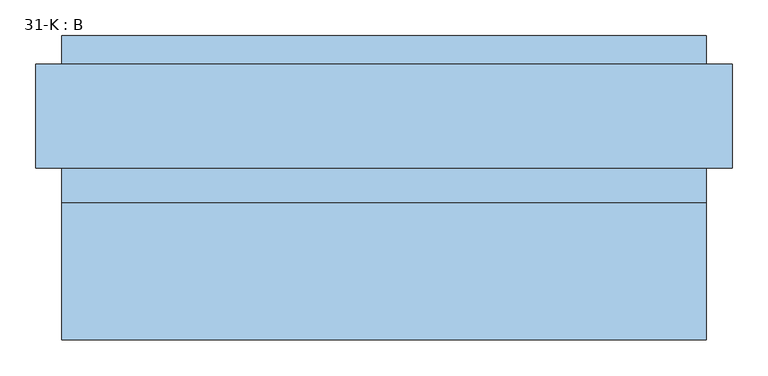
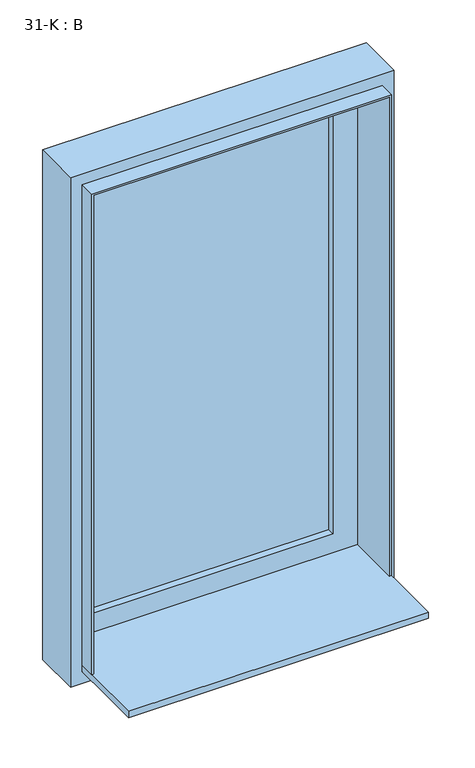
"""IFC4 building model written with IfcOpenShell, lengths in millimetres: window geometry, 31-K : B."""

import ifcopenshell
import ifcopenshell.guid

model = None  # the IFC model being written
_history = None  # IfcOwnerHistory: only IFC2X3 demands one
_inside = {}  # id of a spatial element -> (the spatial element, [elements in it])
_under = {}  # id of a project, library or spatial element -> (it, [spatial elements below it])
_declared = {}  # id of a project -> (the project, [libraries it declares])
_typed = {}  # id of a type object -> (the type object, [elements of that type])
_made_of = {}  # id of a material, layer set ... -> (it, [elements and type objects made of it])


def new_model(schema):
    """Start an empty IFC model of exactly this schema.

    Asked for "IFC4X3", IfcOpenShell would pick the latest addendum, in which some entities
    have other attributes; the version numbers below select the first issue.
    IFC2X3 requires an IfcOwnerHistory on every rooted entity: one is made here for all.
    """
    global model, _history
    if schema == "IFC4X3":
        model = ifcopenshell.file(schema_version=(4, 3, 0, 0))
    else:
        model = ifcopenshell.file(schema=schema)
    _inside.clear()
    _under.clear()
    _declared.clear()
    _typed.clear()
    _made_of.clear()
    _history = None
    if model.schema == "IFC2X3":
        org = make("IfcOrganization", Name="unknown")
        user = make(
            "IfcPersonAndOrganization",
            ThePerson=make("IfcPerson", FamilyName="unknown"),
            TheOrganization=org,
        )
        app = make(
            "IfcApplication",
            ApplicationDeveloper=org,
            Version="unknown",
            ApplicationFullName="unknown",
            ApplicationIdentifier="unknown",
        )
        _history = make(
            "IfcOwnerHistory",
            OwningUser=user,
            OwningApplication=app,
            ChangeAction="ADDED",
            CreationDate=0,
        )
    return model


def make(cls, **values):
    """One entity of the class cls with the attributes given. An attribute that is None is left unset."""
    return model.create_entity(
        cls, **{name: value for name, value in values.items() if value is not None}
    )


def rooted(cls, **values):
    """An entity with a GlobalId (a new one), such as an element, a storey or a relation."""
    return make(cls, GlobalId=ifcopenshell.guid.new(), OwnerHistory=_history, **values)


def si_unit(unit_type, name, prefix=None):
    """IfcSIUnit, for example si_unit("LENGTHUNIT", "METRE", prefix="MILLI")."""
    return make("IfcSIUnit", UnitType=unit_type, Prefix=prefix, Name=name)


def assignment(units):
    """IfcUnitAssignment: the units of a project."""
    return None if units is None else make("IfcUnitAssignment", Units=units)


def point(xyz):
    """IfcCartesianPoint."""
    return None if xyz is None else make("IfcCartesianPoint", Coordinates=xyz)


def direction(xyz):
    """IfcDirection."""
    return None if xyz is None else make("IfcDirection", DirectionRatios=xyz)


def frame(location, z_axis=None, x_axis=None):
    """IfcAxis2Placement3D, a coordinate frame: its origin and axes. An axis left out is left unset."""
    return make(
        "IfcAxis2Placement3D",
        Location=point(location),
        Axis=direction(z_axis),
        RefDirection=direction(x_axis),
    )


def origin():
    """The frame at (0, 0, 0) with its axes left unset."""
    return frame((0.0, 0.0, 0.0))


def place(relative_to, where):
    """IfcLocalPlacement: puts the frame where relative to a parent placement (None: the world)."""
    return make(
        "IfcLocalPlacement", PlacementRelTo=relative_to, RelativePlacement=where
    )


def context(
    kind, dimensions, precision=None, world=None, true_north=None, identifier=None
):
    """IfcGeometricRepresentationContext, for example the 3D "Model" context."""
    return make(
        "IfcGeometricRepresentationContext",
        ContextIdentifier=identifier,
        ContextType=kind,
        CoordinateSpaceDimension=dimensions,
        Precision=precision,
        WorldCoordinateSystem=world,
        TrueNorth=true_north,
    )


def project(units=None, contexts=None):
    """IfcProject with its units and contexts."""
    return rooted(
        "IfcProject",
        Name="project",
        RepresentationContexts=contexts,
        UnitsInContext=assignment(units),
    )


def spatial(cls, under=None, at=None, **own):
    """A site, building, storey or space (cls), placed at a placement, below another one or the project."""
    s = rooted(cls, ObjectPlacement=at, **own)
    if under is not None:
        _under.setdefault(under.id(), (under, []))[1].append(s)
    return s


def polyline(points):
    """IfcPolyline through the points."""
    return make("IfcPolyline", Points=[point(p) for p in points])


def outline(outer, holes=None, kind="AREA"):
    """IfcArbitraryClosedProfileDef: a profile drawn as a closed curve; with holes, ...WithVoids."""
    if holes is None:
        return make("IfcArbitraryClosedProfileDef", ProfileType=kind, OuterCurve=outer)
    return make(
        "IfcArbitraryProfileDefWithVoids",
        ProfileType=kind,
        OuterCurve=outer,
        InnerCurves=holes,
    )


def extrude(swept, where, along, depth):
    """IfcExtrudedAreaSolid: the profile swept, set in the frame where, extruded along a direction by depth."""
    return make(
        "IfcExtrudedAreaSolid",
        SweptArea=swept,
        Position=where,
        ExtrudedDirection=direction(along),
        Depth=depth,
    )


def faces_of(points, faces, orient=None, outer=None):
    """IfcFace entities. A face is a list of loops; a loop is a list of indices into points, from 0.

    orient and outer hold one flag for each loop. By default every Orientation is true, the
    first loop of a face is its IfcFaceOuterBound and the others are IfcFaceBound.
    """
    made = []
    for i, loops in enumerate(faces):
        bounds = []
        for j, loop in enumerate(loops):
            is_outer = j == 0 if outer is None else outer[i][j]
            bounds.append(
                make(
                    "IfcFaceOuterBound" if is_outer else "IfcFaceBound",
                    Bound=make("IfcPolyLoop", Polygon=[points[k] for k in loop]),
                    Orientation=True if orient is None else orient[i][j],
                )
            )
        made.append(make("IfcFace", Bounds=bounds))
    return made


def faceted_brep(points, faces, orient=None, outer=None, voids=None):
    """IfcFacetedBrep: a solid bounded by flat faces; with voids (closed shells), ...WithVoids."""
    shared = [point(p) for p in points]
    hull = make("IfcClosedShell", CfsFaces=faces_of(shared, faces, orient, outer))
    if voids is None:
        return make("IfcFacetedBrep", Outer=hull)
    return make(
        "IfcFacetedBrepWithVoids",
        Outer=hull,
        Voids=[
            make(cls, CfsFaces=faces_of(shared, fs, o, b)) for cls, fs, o, b in voids
        ],
    )


def shape(context_of_items, identifier, shape_type, items):
    """IfcShapeRepresentation: the items that make up one representation, for example the "Body"."""
    return make(
        "IfcShapeRepresentation",
        ContextOfItems=context_of_items,
        RepresentationIdentifier=identifier,
        RepresentationType=shape_type,
        Items=items,
    )


def source(mapping_origin, context_of_items, identifier, shape_type, items):
    """IfcRepresentationMap: a shape defined once, which mapped items show again and again."""
    return make(
        "IfcRepresentationMap",
        MappingOrigin=mapping_origin,
        MappedRepresentation=shape(context_of_items, identifier, shape_type, items),
    )


def transform(
    local_origin,
    x_axis=None,
    y_axis=None,
    z_axis=None,
    scale=None,
    scale2=None,
    scale3=None,
    uniform=True,
):
    """IfcCartesianTransformationOperator3D, or its non-uniform kind. x_axis, y_axis, z_axis: its Axis1, 2, 3."""
    if uniform:
        return make(
            "IfcCartesianTransformationOperator3D",
            Axis1=direction(x_axis),
            Axis2=direction(y_axis),
            LocalOrigin=point(local_origin),
            Scale=scale,
            Axis3=direction(z_axis),
        )
    return make(
        "IfcCartesianTransformationOperator3DnonUniform",
        Axis1=direction(x_axis),
        Axis2=direction(y_axis),
        LocalOrigin=point(local_origin),
        Scale=scale,
        Axis3=direction(z_axis),
        Scale2=scale2,
        Scale3=scale3,
    )


def mapped(mapping_source, mapping_target):
    """IfcMappedItem: shows the shape of a source again, moved by a transform."""
    return make(
        "IfcMappedItem", MappingSource=mapping_source, MappingTarget=mapping_target
    )


def made_of(thing, what):
    """Note that an element or type object is made of a material, layer set ...; save() writes the relation."""
    if what is not None:
        _made_of.setdefault(what.id(), (what, []))[1].append(thing)
    return thing


def element(
    cls,
    number,
    at=None,
    inside=None,
    cuts=None,
    type_object=None,
    material=None,
    context=None,
    identifier="Body",
    shape_type=None,
    held_by="IfcProductDefinitionShape",
    body=None,
    shapes=None,
    **own,
):
    """One element of the class cls, such as IfcWall. Its Tag is "e" and its number.

    at: its placement. inside: the storey or other place that contains it. cuts: it is an
    opening in that element (IfcRelVoidsElement). A single representation is given by context,
    identifier, shape_type and body (its items); several are given by shapes. held_by: the class
    of the entity that holds the representations. save() writes the other relations.
    """
    e = rooted(cls, Tag="e%d" % number, ObjectPlacement=at, **own)
    if body is not None:
        shapes = [shape(context, identifier, shape_type, body)]
    if shapes is not None:
        e.Representation = make(held_by, Representations=shapes)
    if inside is not None:
        _inside.setdefault(inside.id(), (inside, []))[1].append(e)
    if cuts is not None:
        rooted(
            "IfcRelVoidsElement", RelatingBuildingElement=cuts, RelatedOpeningElement=e
        )
    if type_object is not None:
        _typed.setdefault(type_object.id(), (type_object, []))[1].append(e)
    return made_of(e, material)


def aggregate(whole, parts):
    """IfcRelAggregates: a whole, such as a stair, and the parts it consists of."""
    return rooted("IfcRelAggregates", RelatingObject=whole, RelatedObjects=parts)


def save(model, path):
    """Write the relations noted so far, then the file.

    IfcRelAggregates (storeys below a building ...), IfcRelContainedInSpatialStructure (elements
    in a storey), IfcRelDefinesByType, IfcRelAssociatesMaterial and IfcRelDeclares: one each for
    every whole, place, type object, material and project.
    """
    for whole, parts in _under.values():
        aggregate(whole, parts)
    for where, things in _inside.values():
        rooted(
            "IfcRelContainedInSpatialStructure",
            RelatedElements=things,
            RelatingStructure=where,
        )
    for kind, things in _typed.values():
        rooted("IfcRelDefinesByType", RelatedObjects=things, RelatingType=kind)
    for what, things in _made_of.values():
        rooted("IfcRelAssociatesMaterial", RelatedObjects=things, RelatingMaterial=what)
    for by, libraries in _declared.values():
        rooted("IfcRelDeclares", RelatingContext=by, RelatedDefinitions=libraries)
    model.write(path)


def window_31_k_b_aa799d78(model_context):
    return source(origin(), model_context, "Body", "SolidModel", [
        extrude(outline(polyline([(380.0, 243.5), (380.0, 239.5), (-380.0, 239.5), (-380.0, 243.5), (380.0, 243.5)])), frame((0.0, 0.0, 925.0191483), z_axis=(0.0, 0.0, 1.0), x_axis=(1.0, 0.0, 0.0)), (0.0, 0.0, 1.0), 1404.9808517),
        extrude(outline(polyline([(-380.0, 258.5), (-380.0, 263.5), (380.0, 263.5), (380.0, 258.5), (-380.0, 258.5)])), frame((0.0, 0.0, 925.0191483), z_axis=(0.0, 0.0, 1.0), x_axis=(1.0, 0.0, 0.0)), (0.0, 0.0, 1.0), 1404.9808517),
        extrude(outline(polyline([(819.0, -486.0), (819.0, 486.0), (2436.0, 486.0), (2436.0, -486.0), (819.0, -486.0)]), holes=[polyline([(2400.0, -450.0), (2400.0, 450.0), (855.0, 450.0), (855.0, -450.0), (2400.0, -450.0)])]), frame((0.0, 100.0, 0.0), z_axis=(0.0, 1.0, 0.0), x_axis=(0.0, 0.0, 1.0)), (0.0, 0.0, 1.0), 145.0),
        extrude(outline(polyline([(875.0, 444.0), (875.0, 450.0), (2400.0, 450.0), (2400.0, -450.0), (875.0, -450.0), (875.0, -444.0), (2394.0, -444.0), (2394.0, 444.0), (875.0, 444.0)])), frame((0.0, 52.0, 0.0), z_axis=(0.0, 1.0, 0.0), x_axis=(0.0, 0.0, 1.0)), (0.0, 0.0, 1.0), 165.0),
        faceted_brep([(-450.0, 285.0, 2400.0), (-450.0, 217.0, 2400.0), (450.0, 217.0, 2400.0), (450.0, 285.0, 2400.0), (-450.0, 285.0, 855.0), (-450.0, 226.0, 855.0), (-450.0, 226.0, 875.0), (-450.0, 217.0, 875.0), (450.0, 285.0, 855.0), (370.0, 285.0, 2320.0), (-370.0, 285.0, 2320.0), (-370.0, 285.0, 922.7707727), (370.0, 285.0, 922.7707727), (450.0, 217.0, 875.0), (-370.0, 217.0, 2320.0), (370.0, 217.0, 2320.0), (370.0, 217.0, 935.0), (-370.0, 217.0, 935.0), (450.0, 226.0, 875.0), (450.0, 226.0, 855.0), (-370.0, 239.5, 2320.0), (370.0, 239.5, 2320.0), (370.0, 239.5, 935.0), (-370.0, 239.5, 935.0), (370.0, 267.0, 2320.0), (-370.0, 267.0, 2320.0), (-370.0, 267.0, 928.273925), (370.0, 267.0, 928.273925), (-384.0, 239.5, 921.0), (-384.0, 239.5, 2334.0), (384.0, 239.5, 2334.0), (384.0, 239.5, 921.0), (-384.0, 267.0, 2334.0), (384.0, 267.0, 2334.0), (-384.0, 267.0, 921.0), (384.0, 267.0, 921.0)], [[[0, 1, 2, 3]], [[1, 0, 4, 5, 6, 7]], [[4, 0, 3, 8], [9, 10, 11, 12]], [[2, 1, 7, 13], [14, 15, 16, 17]], [[8, 3, 2, 13, 18, 19]], [[15, 14, 20, 21]], [[16, 15, 21, 22]], [[14, 17, 23, 20]], [[10, 9, 24, 25]], [[10, 25, 26, 11]], [[24, 9, 12, 27]], [[28, 29, 30, 31], [20, 23, 22, 21]], [[29, 32, 33, 30]], [[32, 29, 28, 34]], [[32, 34, 35, 33], [25, 24, 27, 26]], [[35, 31, 30, 33]], [[4, 8, 19, 5]], [[17, 16, 22, 23]], [[34, 28, 31, 35]], [[18, 6, 5, 19]], [[6, 18, 13, 7]], [[27, 12, 11, 26]]]),
        extrude(outline(polyline([(-450.0, -140.0), (-450.0, 226.0), (450.0, 226.0), (450.0, -140.0), (-450.0, -140.0)])), frame((0.0, 0.0, 855.0), z_axis=(0.0, 0.0, 1.0), x_axis=(1.0, 0.0, 0.0)), (0.0, 0.0, 1.0), 20.0),
    ])


if __name__ == "__main__":
    model = new_model("IFC4")
    model_context = context("Model", 3, world=origin())
    ifc_project = project(units=[si_unit("LENGTHUNIT", "METRE", prefix="MILLI")], contexts=[model_context])
    site = spatial("IfcSite", under=ifc_project)
    building = spatial("IfcBuilding", under=site)
    placement = place(None, origin())
    window_31_k_b_shape = window_31_k_b_aa799d78(model_context)
    element("IfcWindow", 1, ObjectType="31-K : B", at=placement, inside=building, context=model_context, shape_type="MappedRepresentation", body=[
        mapped(window_31_k_b_shape, transform((0.0, 0.0, 0.0), x_axis=(1.0, 0.0, 0.0), y_axis=(0.0, 1.0, 0.0), z_axis=(0.0, 0.0, 1.0))),
    ])
    save(model, "model.ifc")
